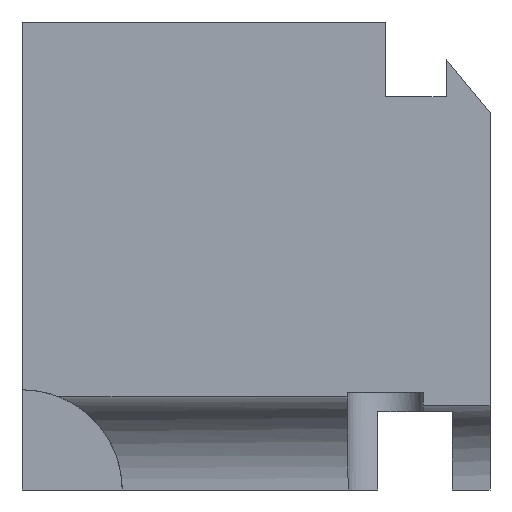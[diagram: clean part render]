
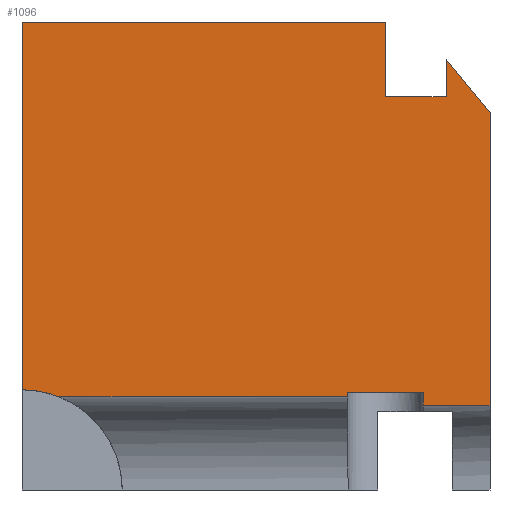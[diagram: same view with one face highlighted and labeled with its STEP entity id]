
A CAD part, left-side view. The second image highlights one B-rep face of the part: STEP entity #1096.
In plain terms, the highlighted planar face has unit normal (-1, 0, 0).
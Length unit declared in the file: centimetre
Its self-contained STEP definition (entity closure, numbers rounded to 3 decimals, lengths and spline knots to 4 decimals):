
#20 = CARTESIAN_POINT ( 'NONE',  ( 0., 142.7424, 181.3105 ) ) ;
#30 = DIRECTION ( 'NONE',  ( 0., 0., 1. ) ) ;
#38 = CARTESIAN_POINT ( 'NONE',  ( 0., 93.7259, 840.2477 ) ) ;
#41 = VERTEX_POINT ( 'NONE', #449 ) ;
#54 = DIRECTION ( 'NONE',  ( 0., -1., 0. ) ) ;
#55 = ORIENTED_EDGE ( 'NONE', *, *, #96, .F. ) ;
#62 = LINE ( 'NONE', #77, #1204 ) ;
#66 = ORIENTED_EDGE ( 'NONE', *, *, #896, .T. ) ;
#72 = DIRECTION ( 'NONE',  ( 0., -1., 0. ) ) ;
#74 = VECTOR ( 'NONE', #72, 100. ) ;
#77 = CARTESIAN_POINT ( 'NONE',  ( 0., 223.2302, 840.2477 ) ) ;
#93 = VECTOR ( 'NONE', #1077, 100. ) ;
#96 = EDGE_CURVE ( 'NONE', #218, #171, #944, .T. ) ;
#127 = EDGE_LOOP ( 'NONE', ( #66, #277, #403, #55, #779, #1205, #552, #731, #307, #925, #628, #894, #1104 ) ) ;
#138 = LINE ( 'NONE', #1178, #354 ) ;
#157 = VERTEX_POINT ( 'NONE', #472 ) ;
#171 = VERTEX_POINT ( 'NONE', #1051 ) ;
#194 = VERTEX_POINT ( 'NONE', #508 ) ;
#201 = DIRECTION ( 'NONE',  ( 0., 0., -1. ) ) ;
#218 = VERTEX_POINT ( 'NONE', #593 ) ;
#219 = LINE ( 'NONE', #1074, #517 ) ;
#233 = CARTESIAN_POINT ( 'NONE',  ( 0., 159.8553, 1000. ) ) ;
#244 = VERTEX_POINT ( 'NONE', #386 ) ;
#251 = EDGE_CURVE ( 'NONE', #677, #771, #879, .T. ) ;
#277 = ORIENTED_EDGE ( 'NONE', *, *, #477, .F. ) ;
#307 = ORIENTED_EDGE ( 'NONE', *, *, #414, .F. ) ;
#335 = VECTOR ( 'NONE', #542, 100. ) ;
#338 = CARTESIAN_POINT ( 'NONE',  ( 0., 921.2123, 199.1957 ) ) ;
#354 = VECTOR ( 'NONE', #54, 100. ) ;
#371 = VECTOR ( 'NONE', #700, 100. ) ;
#380 = EDGE_CURVE ( 'NONE', #630, #157, #739, .T. ) ;
#386 = CARTESIAN_POINT ( 'NONE',  ( 0., 93.7259, 919.7365 ) ) ;
#403 = ORIENTED_EDGE ( 'NONE', *, *, #850, .T. ) ;
#410 = PLANE ( 'NONE',  #1038 ) ;
#414 = EDGE_CURVE ( 'NONE', #244, #41, #1191, .T. ) ;
#421 = LINE ( 'NONE', #984, #460 ) ;
#428 = DIRECTION ( 'NONE',  ( 0., 0., -1. ) ) ;
#443 = LINE ( 'NONE', #1087, #752 ) ;
#449 = CARTESIAN_POINT ( 'NONE',  ( 0., 0., 805.9782 ) ) ;
#459 = LINE ( 'NONE', #853, #74 ) ;
#460 = VECTOR ( 'NONE', #30, 100. ) ;
#472 = CARTESIAN_POINT ( 'NONE',  ( 0., 93.7259, 840.2477 ) ) ;
#477 = EDGE_CURVE ( 'NONE', #828, #724, #1119, .T. ) ;
#508 = CARTESIAN_POINT ( 'NONE',  ( 0., 0., 181.3105 ) ) ;
#517 = VECTOR ( 'NONE', #818, 100. ) ;
#537 = CARTESIAN_POINT ( 'NONE',  ( 0., 1000., 209.0692 ) ) ;
#542 = DIRECTION ( 'NONE',  ( 0., -1., 0. ) ) ;
#547 = VECTOR ( 'NONE', #201, 100. ) ;
#552 = ORIENTED_EDGE ( 'NONE', *, *, #1091, .T. ) ;
#565 = AXIS2_PLACEMENT_3D ( 'NONE', #1008, #733, #632 ) ;
#586 = EDGE_CURVE ( 'NONE', #904, #920, #459, .T. ) ;
#593 = CARTESIAN_POINT ( 'NONE',  ( 0., 304.3215, 209.0692 ) ) ;
#614 = DIRECTION ( 'NONE',  ( 0., 0., -1. ) ) ;
#616 = DIRECTION ( 'NONE',  ( 0., -1., 0. ) ) ;
#628 = ORIENTED_EDGE ( 'NONE', *, *, #380, .F. ) ;
#630 = VERTEX_POINT ( 'NONE', #1218 ) ;
#632 = DIRECTION ( 'NONE',  ( 0., 0., 1. ) ) ;
#677 = VERTEX_POINT ( 'NONE', #702 ) ;
#700 = DIRECTION ( 'NONE',  ( 0., -1., 0. ) ) ;
#702 = CARTESIAN_POINT ( 'NONE',  ( 0., 142.7424, 209.0692 ) ) ;
#724 = VERTEX_POINT ( 'NONE', #789 ) ;
#731 = ORIENTED_EDGE ( 'NONE', *, *, #1186, .F. ) ;
#733 = DIRECTION ( 'NONE',  ( -1., 0., 0. ) ) ;
#737 = CARTESIAN_POINT ( 'NONE',  ( 0., 223.2302, 1000. ) ) ;
#739 = LINE ( 'NONE', #38, #335 ) ;
#752 = VECTOR ( 'NONE', #616, 100. ) ;
#771 = VERTEX_POINT ( 'NONE', #20 ) ;
#779 = ORIENTED_EDGE ( 'NONE', *, *, #1139, .T. ) ;
#789 = CARTESIAN_POINT ( 'NONE',  ( 0., 1000., 214.2112 ) ) ;
#799 = CARTESIAN_POINT ( 'NONE',  ( 0., 1000., 1000. ) ) ;
#811 = EDGE_CURVE ( 'NONE', #157, #244, #421, .T. ) ;
#814 = CARTESIAN_POINT ( 'NONE',  ( 0., 1000., 1000. ) ) ;
#818 = DIRECTION ( 'NONE',  ( 0., 0., -1. ) ) ;
#827 = DIRECTION ( 'NONE',  ( 1., 0., 0. ) ) ;
#828 = VERTEX_POINT ( 'NONE', #338 ) ;
#850 = EDGE_CURVE ( 'NONE', #828, #171, #443, .T. ) ;
#853 = CARTESIAN_POINT ( 'NONE',  ( 0., 1000., 1000. ) ) ;
#879 = LINE ( 'NONE', #968, #547 ) ;
#894 = ORIENTED_EDGE ( 'NONE', *, *, #955, .F. ) ;
#896 = EDGE_CURVE ( 'NONE', #904, #724, #990, .T. ) ;
#904 = VERTEX_POINT ( 'NONE', #814 ) ;
#905 = FACE_OUTER_BOUND ( 'NONE', #127, .T. ) ;
#920 = VERTEX_POINT ( 'NONE', #737 ) ;
#925 = ORIENTED_EDGE ( 'NONE', *, *, #811, .F. ) ;
#939 = CARTESIAN_POINT ( 'NONE',  ( 0., 304.3215, 209.0692 ) ) ;
#944 = LINE ( 'NONE', #939, #1138 ) ;
#955 = EDGE_CURVE ( 'NONE', #920, #630, #62, .T. ) ;
#968 = CARTESIAN_POINT ( 'NONE',  ( 0., 142.7424, 209.0692 ) ) ;
#984 = CARTESIAN_POINT ( 'NONE',  ( 0., 93.7259, 840.2477 ) ) ;
#990 = LINE ( 'NONE', #1082, #1131 ) ;
#1008 = CARTESIAN_POINT ( 'NONE',  ( 0., 1000., 0. ) ) ;
#1038 = AXIS2_PLACEMENT_3D ( 'NONE', #799, #827, #614 ) ;
#1051 = CARTESIAN_POINT ( 'NONE',  ( 0., 304.3215, 199.1957 ) ) ;
#1074 = CARTESIAN_POINT ( 'NONE',  ( 0., 0., 1000. ) ) ;
#1077 = DIRECTION ( 'NONE',  ( 0., -0.636, -0.772 ) ) ;
#1082 = CARTESIAN_POINT ( 'NONE',  ( 0., 1000., 1000. ) ) ;
#1087 = CARTESIAN_POINT ( 'NONE',  ( 0., 174.1551, 199.1957 ) ) ;
#1091 = EDGE_CURVE ( 'NONE', #771, #194, #138, .T. ) ;
#1096 = ADVANCED_FACE ( 'NONE', ( #905 ), #410, .F. ) ;
#1099 = DIRECTION ( 'NONE',  ( 0., 0., -1. ) ) ;
#1104 = ORIENTED_EDGE ( 'NONE', *, *, #586, .F. ) ;
#1119 = CIRCLE ( 'NONE', #565, 214.2112 ) ;
#1131 = VECTOR ( 'NONE', #428, 100. ) ;
#1138 = VECTOR ( 'NONE', #1216, 100. ) ;
#1139 = EDGE_CURVE ( 'NONE', #218, #677, #1183, .T. ) ;
#1178 = CARTESIAN_POINT ( 'NONE',  ( 0., 699.5306, 181.3105 ) ) ;
#1183 = LINE ( 'NONE', #537, #371 ) ;
#1186 = EDGE_CURVE ( 'NONE', #41, #194, #219, .T. ) ;
#1191 = LINE ( 'NONE', #233, #93 ) ;
#1204 = VECTOR ( 'NONE', #1099, 100. ) ;
#1205 = ORIENTED_EDGE ( 'NONE', *, *, #251, .T. ) ;
#1216 = DIRECTION ( 'NONE',  ( 0., 0., -1. ) ) ;
#1218 = CARTESIAN_POINT ( 'NONE',  ( 0., 223.2302, 840.2477 ) ) ;
